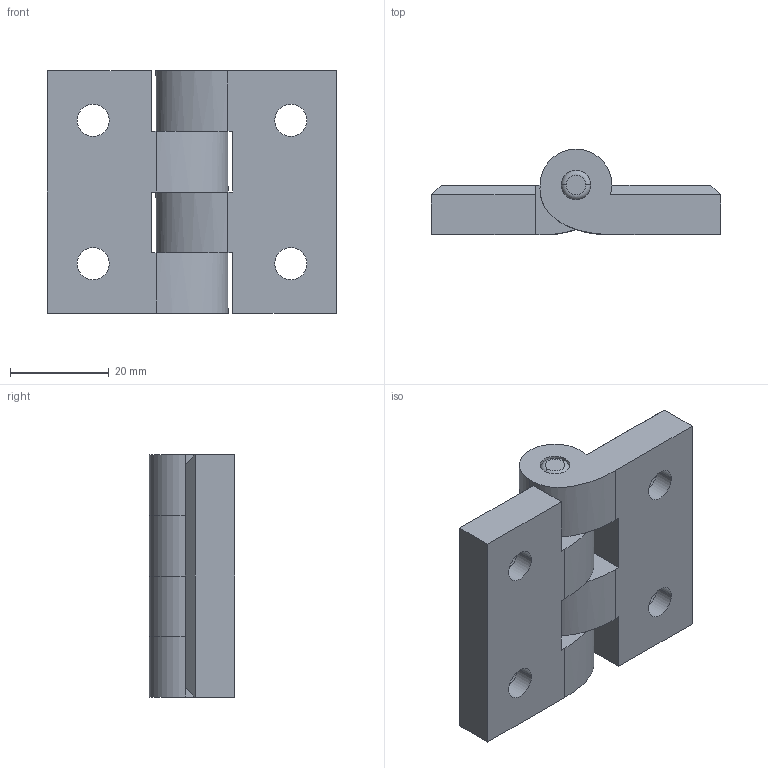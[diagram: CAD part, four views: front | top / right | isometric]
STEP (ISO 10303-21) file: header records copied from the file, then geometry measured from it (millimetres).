
FILE_DESCRIPTION (( 'STEP AP203' ), '1' );
FILE_NAME ('205-CE-HG-40.STEP', '2015-07-09T09:24:57', ( '' ), ( '' ), 'SwSTEP 2.0', 'SolidWorks 2013', '' );
FILE_SCHEMA (( 'CONFIG_CONTROL_DESIGN' ));
Length unit declared in the file: millimetre
Products named in the file (1): 205-CE-HG-40
Bounding box: 58.5 x 17.26 x 49 mm (x, y, z)
Surface area: 11298.9 mm2 (no closed solid volume)
Topology: 0 solids, 4 shells, 66 faces, 170 edges, 114 vertices
Faces by surface type: plane 32, cylinder 26, bspline 4, torus 4
Entity records: 2156 total; most frequent: CARTESIAN_POINT 409, DIRECTION 356, ORIENTED_EDGE 328, EDGE_CURVE 170, AXIS2_PLACEMENT_3D 133, VERTEX_POINT 114, LINE 90, VECTOR 90
